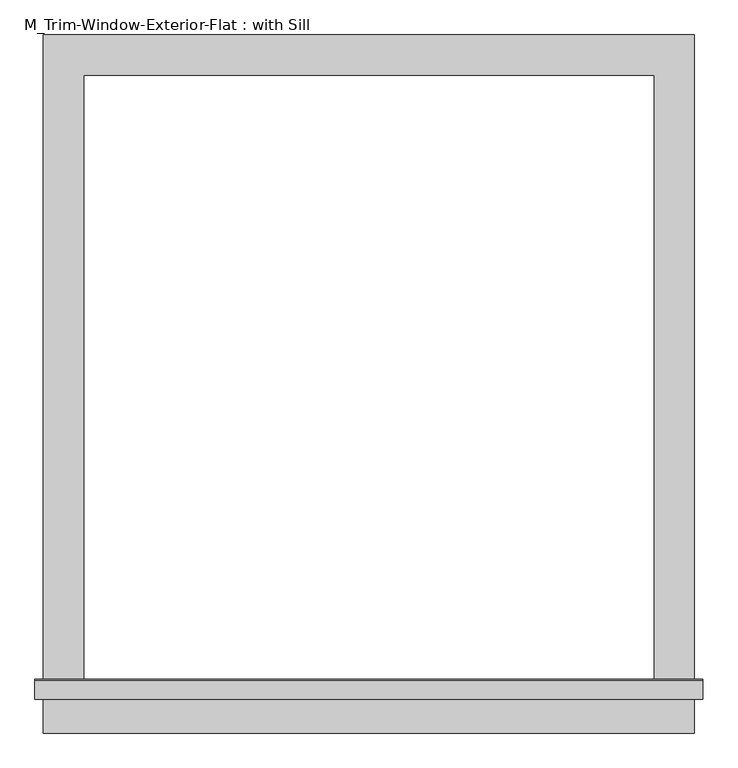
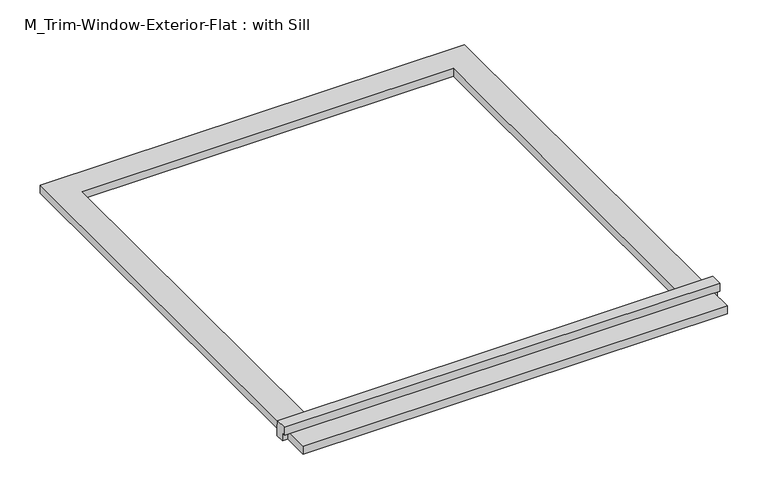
"""IFC4 building model written with IfcOpenShell, lengths in millimetres: proxy geometry, M_Trim-Window-Exterior-Flat : with Sill."""

from ifc_helpers import new_model, si_unit, frame, origin, origin_with_axes, place, context, project, spatial, polyline, outline, extrude, source, transform, mapped, element, save


def m_trim_window_exterior_flat_with_sill_90d3a428(model_context):
    return source(origin(), model_context, "Body", "SweptSolid", [
        extrude(outline(polyline([(485.0, -920.4323709), (485.0, -980.4323709), (-485.0, -980.4323709), (-485.0, -920.4323709), (485.0, -920.4323709)])), origin_with_axes(), (0.0, 0.0, 1.0), 19.05),
        extrude(outline(polyline([(-930.0, 38.1), (-902.4580645, 38.1), (-900.0, 19.05), (-900.0, 0.0), (-920.4323709, 0.0), (-920.4323709, 19.05), (-930.0, 19.05), (-930.0, 38.1)])), frame((-497.7, 0.0, 0.0), z_axis=(1.0, 0.0, 0.0), x_axis=(0.0, 1.0, 0.0)), (0.0, 0.0, 1.0), 995.4),
        extrude(outline(polyline([(-485.0, 60.0), (485.0, 60.0), (485.0, -900.0), (425.0, -900.0), (425.0, 0.0), (-425.0, 0.0), (-425.0, -900.0), (-485.0, -900.0), (-485.0, 60.0)])), origin_with_axes(), (0.0, 0.0, 1.0), 19.05),
    ])


if __name__ == "__main__":
    model = new_model("IFC4")
    model_context = context("Model", 3, world=origin())
    ifc_project = project(units=[si_unit("LENGTHUNIT", "METRE", prefix="MILLI")], contexts=[model_context])
    site = spatial("IfcSite", under=ifc_project)
    building = spatial("IfcBuilding", under=site)
    placement = place(None, origin())
    m_trim_window_exterior_flat_with_sill_shape = m_trim_window_exterior_flat_with_sill_90d3a428(model_context)
    element("IfcBuildingElementProxy", 1, Name="M_Trim-Window-Exterior-Flat : with Sill", ObjectType="M_Trim-Window-Exterior-Flat : with Sill", at=placement, inside=building, context=model_context, shape_type="MappedRepresentation", body=[
        mapped(m_trim_window_exterior_flat_with_sill_shape, transform((0.0, 0.0, 0.0), x_axis=(1.0, 0.0, 0.0), y_axis=(0.0, 1.0, 0.0), z_axis=(0.0, 0.0, 1.0))),
    ])
    save(model, "model.ifc")
